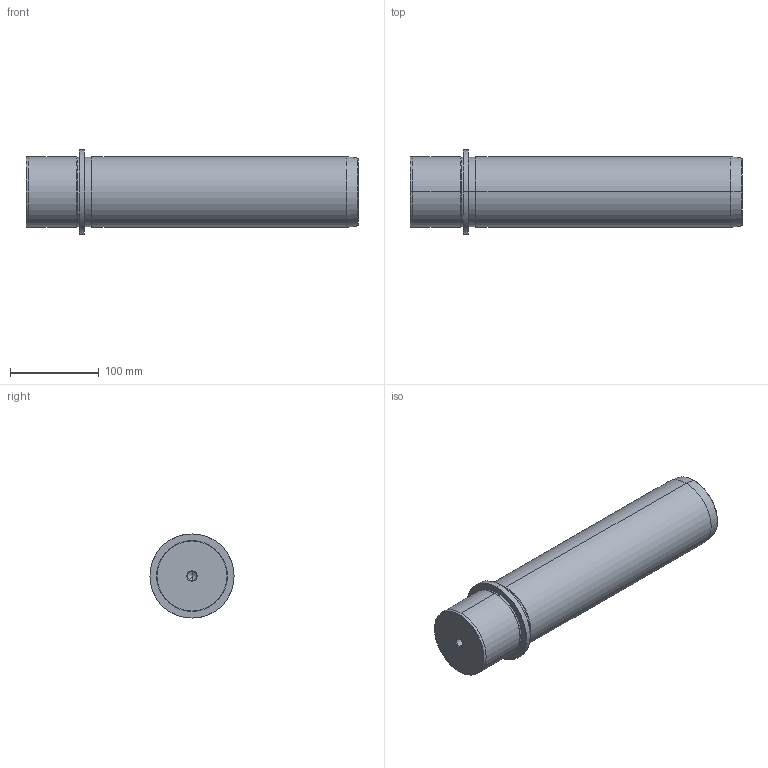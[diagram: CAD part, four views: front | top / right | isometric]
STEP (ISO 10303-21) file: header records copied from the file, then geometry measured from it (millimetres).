
FILE_DESCRIPTION(('CATIA V5 STEP Exchange'),'2;1');
FILE_NAME('C:\Users\Utente\Desktop\IO LAVORO\3D X SITO CF\X SITO\718\718-80x315.stp','2021-01-02T07:33:59+00:00',('none'),('none'),'CATIA Version 5 Release 20 GA (IN-10)','CATIA V5 STEP AP203','none');
FILE_SCHEMA(('CONFIG_CONTROL_DESIGN'));
Length unit declared in the file: millimetre
Products named in the file (1): 718-80x315
Bounding box: 375 x 95 x 95 mm (x, y, z)
Volume: 1889040.4 mm3; surface area: 109877.4 mm2
Topology: 1 solids, 1 shells, 36 faces, 112 edges, 78 vertices
Faces by surface type: cone 16, cylinder 14, plane 4, torus 2
Entity records: 1390 total; most frequent: CARTESIAN_POINT 383, ORIENTED_EDGE 216, DIRECTION 166, EDGE_CURVE 108, AXIS2_PLACEMENT_3D 101, VERTEX_POINT 78, CIRCLE 64, EDGE_LOOP 40
